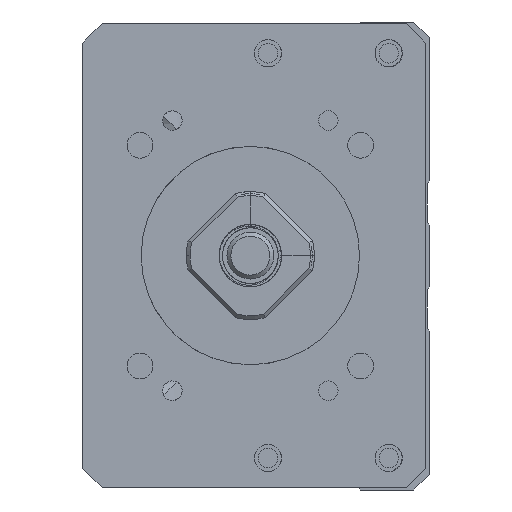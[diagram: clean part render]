
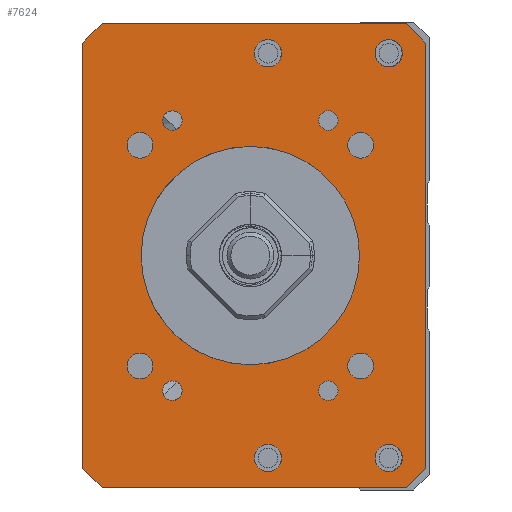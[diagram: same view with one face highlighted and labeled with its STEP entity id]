
A CAD part, left-side view. The second image highlights one B-rep face of the part: STEP entity #7624.
In plain terms, the highlighted planar face has unit normal (-1, 0, 0).
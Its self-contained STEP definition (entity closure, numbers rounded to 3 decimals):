
#4639=CIRCLE('',#15089,14.);
#4648=CIRCLE('',#15100,1.65);
#4649=CIRCLE('',#15101,1.65);
#4650=CIRCLE('',#15102,1.65);
#4651=CIRCLE('',#15103,1.65);
#4652=CIRCLE('',#15104,1.25);
#4653=CIRCLE('',#15105,1.75);
#4654=CIRCLE('',#15106,1.25);
#4655=CIRCLE('',#15107,1.75);
#4656=CIRCLE('',#15108,1.25);
#4657=CIRCLE('',#15109,1.75);
#4658=CIRCLE('',#15110,1.75);
#4659=CIRCLE('',#15111,1.25);
#5100=PLANE('',#15112);
#6001=LINE('',#19816,#6820);
#6003=LINE('',#19840,#6822);
#6004=LINE('',#19842,#6823);
#6005=LINE('',#19844,#6824);
#6006=LINE('',#19846,#6825);
#6007=LINE('',#19848,#6826);
#6008=LINE('',#19850,#6827);
#6009=LINE('',#19852,#6828);
#6820=VECTOR('',#16629,1.);
#6822=VECTOR('',#16653,1.);
#6823=VECTOR('',#16654,1.);
#6824=VECTOR('',#16655,1.);
#6825=VECTOR('',#16656,1.);
#6826=VECTOR('',#16657,1.);
#6827=VECTOR('',#16658,1.);
#6828=VECTOR('',#16659,1.);
#7624=ADVANCED_FACE('',(#8409,#8410,#8411,#8412,#8413,#8414,#8415,#8416,
#8417,#8418,#8419,#8420,#8421,#8422),#5100,.F.);
#8409=FACE_BOUND('',#8954,.T.);
#8410=FACE_BOUND('',#8955,.T.);
#8411=FACE_BOUND('',#8956,.T.);
#8412=FACE_BOUND('',#8957,.T.);
#8413=FACE_BOUND('',#8958,.T.);
#8414=FACE_BOUND('',#8959,.T.);
#8415=FACE_BOUND('',#8960,.T.);
#8416=FACE_BOUND('',#8961,.T.);
#8417=FACE_BOUND('',#8962,.T.);
#8418=FACE_BOUND('',#8963,.T.);
#8419=FACE_BOUND('',#8964,.T.);
#8420=FACE_BOUND('',#8965,.T.);
#8421=FACE_BOUND('',#8966,.T.);
#8422=FACE_BOUND('',#8967,.T.);
#8954=EDGE_LOOP('',(#10319));
#8955=EDGE_LOOP('',(#10320));
#8956=EDGE_LOOP('',(#10321));
#8957=EDGE_LOOP('',(#10322));
#8958=EDGE_LOOP('',(#10323));
#8959=EDGE_LOOP('',(#10324));
#8960=EDGE_LOOP('',(#10325));
#8961=EDGE_LOOP('',(#10326));
#8962=EDGE_LOOP('',(#10327));
#8963=EDGE_LOOP('',(#10328,#10329,#10330,#10331,#10332,#10333,#10334,#10335));
#8964=EDGE_LOOP('',(#10336));
#8965=EDGE_LOOP('',(#10337));
#8966=EDGE_LOOP('',(#10338));
#8967=EDGE_LOOP('',(#10339));
#10319=ORIENTED_EDGE('',*,*,#13698,.F.);
#10320=ORIENTED_EDGE('',*,*,#13699,.F.);
#10321=ORIENTED_EDGE('',*,*,#13700,.F.);
#10322=ORIENTED_EDGE('',*,*,#13701,.F.);
#10323=ORIENTED_EDGE('',*,*,#13702,.F.);
#10324=ORIENTED_EDGE('',*,*,#13703,.T.);
#10325=ORIENTED_EDGE('',*,*,#13704,.F.);
#10326=ORIENTED_EDGE('',*,*,#13705,.F.);
#10327=ORIENTED_EDGE('',*,*,#13706,.F.);
#10328=ORIENTED_EDGE('',*,*,#13695,.T.);
#10329=ORIENTED_EDGE('',*,*,#13707,.T.);
#10330=ORIENTED_EDGE('',*,*,#13708,.F.);
#10331=ORIENTED_EDGE('',*,*,#13709,.T.);
#10332=ORIENTED_EDGE('',*,*,#13710,.F.);
#10333=ORIENTED_EDGE('',*,*,#13711,.T.);
#10334=ORIENTED_EDGE('',*,*,#13712,.T.);
#10335=ORIENTED_EDGE('',*,*,#13713,.T.);
#10336=ORIENTED_EDGE('',*,*,#13714,.F.);
#10337=ORIENTED_EDGE('',*,*,#13715,.F.);
#10338=ORIENTED_EDGE('',*,*,#13716,.F.);
#10339=ORIENTED_EDGE('',*,*,#13675,.F.);
#12601=VERTEX_POINT('',#19755);
#12621=VERTEX_POINT('',#19815);
#12622=VERTEX_POINT('',#19817);
#12624=VERTEX_POINT('',#19823);
#12625=VERTEX_POINT('',#19825);
#12626=VERTEX_POINT('',#19827);
#12627=VERTEX_POINT('',#19829);
#12628=VERTEX_POINT('',#19831);
#12629=VERTEX_POINT('',#19833);
#12630=VERTEX_POINT('',#19835);
#12631=VERTEX_POINT('',#19837);
#12632=VERTEX_POINT('',#19839);
#12633=VERTEX_POINT('',#19841);
#12634=VERTEX_POINT('',#19843);
#12635=VERTEX_POINT('',#19845);
#12636=VERTEX_POINT('',#19847);
#12637=VERTEX_POINT('',#19849);
#12638=VERTEX_POINT('',#19851);
#12639=VERTEX_POINT('',#19854);
#12640=VERTEX_POINT('',#19856);
#12641=VERTEX_POINT('',#19858);
#13675=EDGE_CURVE('',#12601,#12601,#4639,.T.);
#13695=EDGE_CURVE('',#12622,#12621,#6001,.T.);
#13698=EDGE_CURVE('',#12624,#12624,#4648,.T.);
#13699=EDGE_CURVE('',#12625,#12625,#4649,.T.);
#13700=EDGE_CURVE('',#12626,#12626,#4650,.T.);
#13701=EDGE_CURVE('',#12627,#12627,#4651,.T.);
#13702=EDGE_CURVE('',#12628,#12628,#4652,.T.);
#13703=EDGE_CURVE('',#12629,#12629,#4653,.T.);
#13704=EDGE_CURVE('',#12630,#12630,#4654,.T.);
#13705=EDGE_CURVE('',#12631,#12631,#4655,.T.);
#13706=EDGE_CURVE('',#12632,#12632,#4656,.T.);
#13707=EDGE_CURVE('',#12621,#12633,#6003,.T.);
#13708=EDGE_CURVE('',#12634,#12633,#6004,.T.);
#13709=EDGE_CURVE('',#12634,#12635,#6005,.T.);
#13710=EDGE_CURVE('',#12636,#12635,#6006,.T.);
#13711=EDGE_CURVE('',#12636,#12637,#6007,.T.);
#13712=EDGE_CURVE('',#12637,#12638,#6008,.T.);
#13713=EDGE_CURVE('',#12638,#12622,#6009,.T.);
#13714=EDGE_CURVE('',#12639,#12639,#4657,.T.);
#13715=EDGE_CURVE('',#12640,#12640,#4658,.T.);
#13716=EDGE_CURVE('',#12641,#12641,#4659,.T.);
#15089=AXIS2_PLACEMENT_3D('',#19754,#16603,#16604);
#15100=AXIS2_PLACEMENT_3D('',#19822,#16635,#16636);
#15101=AXIS2_PLACEMENT_3D('',#19824,#16637,#16638);
#15102=AXIS2_PLACEMENT_3D('',#19826,#16639,#16640);
#15103=AXIS2_PLACEMENT_3D('',#19828,#16641,#16642);
#15104=AXIS2_PLACEMENT_3D('',#19830,#16643,#16644);
#15105=AXIS2_PLACEMENT_3D('',#19832,#16645,#16646);
#15106=AXIS2_PLACEMENT_3D('',#19834,#16647,#16648);
#15107=AXIS2_PLACEMENT_3D('',#19836,#16649,#16650);
#15108=AXIS2_PLACEMENT_3D('',#19838,#16651,#16652);
#15109=AXIS2_PLACEMENT_3D('',#19853,#16660,#16661);
#15110=AXIS2_PLACEMENT_3D('',#19855,#16662,#16663);
#15111=AXIS2_PLACEMENT_3D('',#19857,#16664,#16665);
#15112=AXIS2_PLACEMENT_3D('',#19859,#16666,#16667);
#16603=DIRECTION('',(-1.,0.,0.));
#16604=DIRECTION('',(0.,1.,0.));
#16629=DIRECTION('',(0.,0.,-1.));
#16635=DIRECTION('',(-1.,0.,0.));
#16636=DIRECTION('',(0.,0.,1.));
#16637=DIRECTION('',(-1.,0.,0.));
#16638=DIRECTION('',(0.,0.,1.));
#16639=DIRECTION('',(-1.,0.,0.));
#16640=DIRECTION('',(0.,0.,1.));
#16641=DIRECTION('',(-1.,0.,0.));
#16642=DIRECTION('',(0.,0.,1.));
#16643=DIRECTION('',(-1.,0.,0.));
#16644=DIRECTION('',(0.,1.,0.));
#16645=DIRECTION('',(1.,0.,0.));
#16646=DIRECTION('',(0.,0.,1.));
#16647=DIRECTION('',(-1.,0.,0.));
#16648=DIRECTION('',(0.,1.,0.));
#16649=DIRECTION('',(-1.,0.,0.));
#16650=DIRECTION('',(0.,0.,1.));
#16651=DIRECTION('',(-1.,0.,0.));
#16652=DIRECTION('',(0.,1.,0.));
#16653=DIRECTION('',(0.,-0.707,-0.707));
#16654=DIRECTION('',(0.,1.,0.));
#16655=DIRECTION('',(0.,-0.707,0.707));
#16656=DIRECTION('',(0.,0.,-1.));
#16657=DIRECTION('',(0.,0.707,0.707));
#16658=DIRECTION('',(0.,1.,0.));
#16659=DIRECTION('',(0.,0.707,-0.707));
#16660=DIRECTION('',(-1.,0.,0.));
#16661=DIRECTION('',(0.,0.,1.));
#16662=DIRECTION('',(-1.,0.,0.));
#16663=DIRECTION('',(0.,0.,1.));
#16664=DIRECTION('',(-1.,0.,0.));
#16665=DIRECTION('',(0.,1.,0.));
#16666=DIRECTION('',(1.,0.,0.));
#16667=DIRECTION('',(0.,1.,0.));
#19754=CARTESIAN_POINT('',(-211.,0.,-200.));
#19755=CARTESIAN_POINT('',(-211.,14.,-200.));
#19815=CARTESIAN_POINT('',(-211.,21.499,-227.25));
#19816=CARTESIAN_POINT('',(-211.,21.499,-170.25));
#19817=CARTESIAN_POINT('',(-211.,21.499,-172.75));
#19822=CARTESIAN_POINT('',(-211.,14.142,-185.858));
#19823=CARTESIAN_POINT('',(-211.,14.142,-184.208));
#19824=CARTESIAN_POINT('',(-211.,-14.142,-185.858));
#19825=CARTESIAN_POINT('',(-211.,-14.142,-184.208));
#19826=CARTESIAN_POINT('',(-211.,14.142,-214.142));
#19827=CARTESIAN_POINT('',(-211.,14.142,-212.492));
#19828=CARTESIAN_POINT('',(-211.,-14.142,-214.142));
#19829=CARTESIAN_POINT('',(-211.,-14.142,-212.492));
#19830=CARTESIAN_POINT('',(-211.,-10.,-217.321));
#19831=CARTESIAN_POINT('',(-211.,-8.75,-217.321));
#19832=CARTESIAN_POINT('',(-211.,-2.25,-225.936));
#19833=CARTESIAN_POINT('',(-211.,-2.25,-224.186));
#19834=CARTESIAN_POINT('',(-211.,10.,-182.679));
#19835=CARTESIAN_POINT('',(-211.,11.25,-182.679));
#19836=CARTESIAN_POINT('',(-211.,-2.25,-174.064));
#19837=CARTESIAN_POINT('',(-211.,-2.25,-172.314));
#19838=CARTESIAN_POINT('',(-211.,10.,-217.321));
#19839=CARTESIAN_POINT('',(-211.,11.25,-217.321));
#19840=CARTESIAN_POINT('',(-211.,18.999,-229.75));
#19841=CARTESIAN_POINT('',(-211.,18.999,-229.75));
#19842=CARTESIAN_POINT('',(-211.,-22.501,-229.75));
#19843=CARTESIAN_POINT('',(-211.,-20.001,-229.75));
#19844=CARTESIAN_POINT('',(-211.,-22.501,-227.25));
#19845=CARTESIAN_POINT('',(-211.,-22.501,-227.25));
#19846=CARTESIAN_POINT('',(-211.,-22.501,-170.25));
#19847=CARTESIAN_POINT('',(-211.,-22.501,-172.75));
#19848=CARTESIAN_POINT('',(-211.,-22.501,-172.75));
#19849=CARTESIAN_POINT('',(-211.,-20.001,-170.25));
#19850=CARTESIAN_POINT('',(-211.,-22.501,-170.25));
#19851=CARTESIAN_POINT('',(-211.,18.999,-170.25));
#19852=CARTESIAN_POINT('',(-211.,18.999,-170.25));
#19853=CARTESIAN_POINT('',(-211.,-17.75,-174.064));
#19854=CARTESIAN_POINT('',(-211.,-17.75,-172.314));
#19855=CARTESIAN_POINT('',(-211.,-17.75,-225.936));
#19856=CARTESIAN_POINT('',(-211.,-17.75,-224.186));
#19857=CARTESIAN_POINT('',(-211.,-10.,-182.679));
#19858=CARTESIAN_POINT('',(-211.,-8.75,-182.679));
#19859=CARTESIAN_POINT('',(-211.,-22.501,-170.25));
